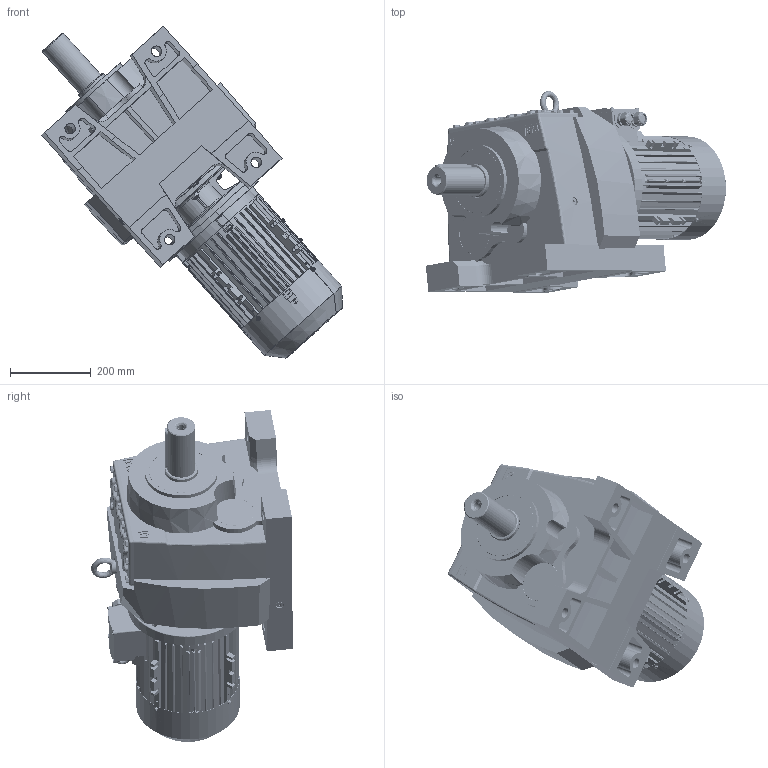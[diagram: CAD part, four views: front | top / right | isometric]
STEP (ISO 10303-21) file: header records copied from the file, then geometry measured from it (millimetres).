
FILE_DESCRIPTION (( 'STEP AP203' ), '1' );
FILE_NAME ('MV_673_0_MX-312S.STEP', '2018-11-27T08:22:25', ( '' ), ( '' ), 'SwSTEP 2.0', 'SolidWorks 2012', '' );
FILE_SCHEMA (( 'CONFIG_CONTROL_DESIGN' ));
Length unit declared in the file: millimetre
Products named in the file (33): MV_673_0_MX-312S; plain parallel keys_GB_CONNECTING_PIECE_KEYS_CSK 10X70_1; MX3-132S_B5; cross recessed pan head screws gb_GB_CROSS_SCREWS_TYPE1 M5X8-8  H type-N_1; hexagon socket head cap screws gb_GB_FASTENER_SCREWS_HSHCS M8X45-N; plain washers--product grade c gb_GB_FASTENER_WASHER_SMWC 4_1; cross recessed pan head screws gb_GB_CROSS_SCREWS_TYPE1 M5X25-25  H type-N_1; DMX-IE3 132S4 fan_1; eyebolts gb_GB_FASTENER_SCREWS_FRS M10-S_1; cross recessed pan head screws gb_GB_CROSS_SCREWS_TYPE1 M4X6-6  H type-N_1; circlips for shaft--type a large gb_GB_CONNECTING_PIECE_RING_RRA 29_1; DMX-IE3 132S4 grouding mark_1; DMX-IE3 132S4   gasket for terminal box cover_1; DMX-IE3 132S4  connection board_1; DMX-IE3 132S4  cable glands_1; DMX-IE3 132S4  oil seal_1; hexagon nuts grade c gb_GB_FASTENER_NUT_SNC1 M8-N_1; hexagon socket head cap screws gb_GB_FASTENER_SCREWS_HSHCS M8X35-N_1; spring lock washers--normal type gb_GB_FASTENER_WASHER_SW 8_1; DMX-IE3 132S4   gasket for terminal box base_1; DMX-IE3 132S4   fan cover_1; cross recessed pan head screws gb_GB_CROSS_SCREWS_TYPE1 M5X10-10  H type-N_1; hex flange bolts-heavy grade b gb_GB_FASTENER_BOLT_HFBB M5X10-N_1; DMX-IE3 132S4   rotor2_1; DMX-IE3 132S4  terminal box_1; DMX-IE3 132S4   terminal box cover_1; DMX-IE3 132S4   rotor1_1; DMX-IE3 132S4  flange B5; DMX-IE3 132S4  casing_1; DMX-IE3 132S4  flange B3_1; ML6A_Varsayìlan; 63132B5_Varsayìlan; M673_Varsayìlan
Assembly tree (64 placements, depth 3):
  MV_673_0_MX-312S
    M673_Varsayìlan
    63132B5_Varsayìlan
    ML6A_Varsayìlan
    MX3-132S_B5
      DMX-IE3 132S4  casing_1
      DMX-IE3 132S4  flange B5
      DMX-IE3 132S4  flange B3_1
      DMX-IE3 132S4   rotor1_1
      DMX-IE3 132S4   rotor2_1
      DMX-IE3 132S4   terminal box cover_1
      DMX-IE3 132S4  terminal box_1
      DMX-IE3 132S4   fan cover_1
      hex flange bolts-heavy grade b gb_GB_FASTENER_BOLT_HFBB M5X10-N_1  x4
      cross recessed pan head screws gb_GB_CROSS_SCREWS_TYPE1 M5X10-10  H type-N_1  x4
      hexagon nuts grade c gb_GB_FASTENER_NUT_SNC1 M8-N_1  x7
      spring lock washers--normal type gb_GB_FASTENER_WASHER_SW 8_1  x8
      hexagon socket head cap screws gb_GB_FASTENER_SCREWS_HSHCS M8X35-N_1  x5
      DMX-IE3 132S4   gasket for terminal box base_1
      DMX-IE3 132S4  connection board_1
      DMX-IE3 132S4   gasket for terminal box cover_1
      DMX-IE3 132S4  oil seal_1
      DMX-IE3 132S4  cable glands_1  x2
      circlips for shaft--type a large gb_GB_CONNECTING_PIECE_RING_RRA 29_1
      DMX-IE3 132S4 grouding mark_1
      cross recessed pan head screws gb_GB_CROSS_SCREWS_TYPE1 M4X6-6  H type-N_1  x3
      eyebolts gb_GB_FASTENER_SCREWS_FRS M10-S_1
      plain washers--product grade c gb_GB_FASTENER_WASHER_SMWC 4_1
      hexagon socket head cap screws gb_GB_FASTENER_SCREWS_HSHCS M8X45-N  x3
      DMX-IE3 132S4 fan_1
      cross recessed pan head screws gb_GB_CROSS_SCREWS_TYPE1 M5X25-25  H type-N_1  x2
      cross recessed pan head screws gb_GB_CROSS_SCREWS_TYPE1 M5X8-8  H type-N_1  x4
      plain parallel keys_GB_CONNECTING_PIECE_KEYS_CSK 10X70_1
Bounding box: 744.37 x 499.9 x 822.8 mm (x, y, z)
Volume: 52942955.3 mm3; surface area: 3247255.9 mm2
Topology: 66 solids, 68 shells, 5499 faces, 14485 edges, 9302 vertices
Faces by surface type: plane 3044, cylinder 1298, cone 678, bspline 479
Entity records: 183742 total; most frequent: CARTESIAN_POINT 60291, ORIENTED_EDGE 25580, DIRECTION 23395, EDGE_CURVE 12790, VERTEX_POINT 8264, LINE 7821, VECTOR 7821, AXIS2_PLACEMENT_3D 7787
